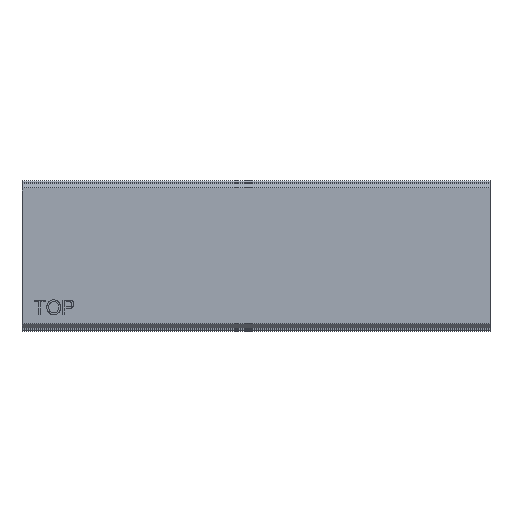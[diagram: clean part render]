
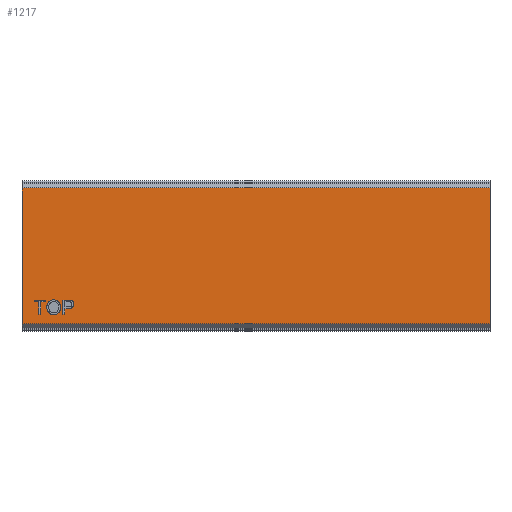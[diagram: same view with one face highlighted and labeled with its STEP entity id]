
A CAD part, top view. The second image highlights one B-rep face of the part: STEP entity #1217.
In plain terms, the highlighted planar face has unit normal (0, 0, 1).
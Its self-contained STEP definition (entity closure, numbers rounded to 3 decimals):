
#243=CARTESIAN_POINT('',(10.621,-22.027,0.));
#244=VERTEX_POINT('',#243);
#251=CARTESIAN_POINT('',(13.541,-25.101,0.));
#252=VERTEX_POINT('',#251);
#253=CARTESIAN_POINT('',(13.541,-25.101,0.));
#254=CARTESIAN_POINT('',(12.676,-25.101,0.));
#255=CARTESIAN_POINT('',(11.319,-24.268,0.));
#256=CARTESIAN_POINT('',(10.621,-22.832,0.));
#257=CARTESIAN_POINT('',(10.621,-22.027,0.));
#258=QUASI_UNIFORM_CURVE('',2,(#253,#254,#255,#256,#257),.UNSPECIFIED.,.F.,.U.);
#259=EDGE_CURVE('',#252,#244,#258,.T.);
#292=CARTESIAN_POINT('',(16.456,-21.958,0.));
#293=VERTEX_POINT('',#292);
#294=CARTESIAN_POINT('',(16.456,-21.958,0.));
#295=CARTESIAN_POINT('',(16.456,-22.883,0.));
#296=CARTESIAN_POINT('',(15.708,-24.347,0.));
#297=CARTESIAN_POINT('',(14.331,-25.101,0.));
#298=CARTESIAN_POINT('',(13.541,-25.101,0.));
#299=QUASI_UNIFORM_CURVE('',2,(#294,#295,#296,#297,#298),.UNSPECIFIED.,.F.,.U.);
#300=EDGE_CURVE('',#293,#252,#299,.T.);
#333=CARTESIAN_POINT('',(13.541,-18.791,0.));
#334=VERTEX_POINT('',#333);
#335=CARTESIAN_POINT('',(13.541,-18.791,0.));
#336=CARTESIAN_POINT('',(14.387,-18.791,0.));
#337=CARTESIAN_POINT('',(15.745,-19.6,0.));
#338=CARTESIAN_POINT('',(16.456,-21.042,0.));
#339=CARTESIAN_POINT('',(16.456,-21.958,0.));
#340=QUASI_UNIFORM_CURVE('',2,(#335,#336,#337,#338,#339),.UNSPECIFIED.,.F.,.U.);
#341=EDGE_CURVE('',#334,#293,#340,.T.);
#369=CARTESIAN_POINT('',(10.621,-22.027,0.));
#370=CARTESIAN_POINT('',(10.621,-20.507,0.));
#371=CARTESIAN_POINT('',(12.253,-18.791,0.));
#372=CARTESIAN_POINT('',(13.541,-18.791,0.));
#373=QUASI_UNIFORM_CURVE('',2,(#369,#370,#371,#372),.UNSPECIFIED.,.F.,.U.);
#374=EDGE_CURVE('',#244,#334,#373,.T.);
#413=CARTESIAN_POINT('',(7.208,-24.998,0.));
#414=VERTEX_POINT('',#413);
#421=CARTESIAN_POINT('',(8.017,-24.998,0.));
#422=VERTEX_POINT('',#421);
#423=CARTESIAN_POINT('',(8.017,-24.998,0.));
#424=DIRECTION('',(-1.0,0.0,0.0));
#425=VECTOR('',#424,0.809);
#426=LINE('',#423,#425);
#427=EDGE_CURVE('',#422,#414,#426,.T.);
#452=CARTESIAN_POINT('',(8.017,-19.619,0.));
#453=VERTEX_POINT('',#452);
#454=CARTESIAN_POINT('',(8.017,-19.619,0.));
#455=DIRECTION('',(0.0,-1.0,0.0));
#456=VECTOR('',#455,5.379);
#457=LINE('',#454,#456);
#458=EDGE_CURVE('',#453,#422,#457,.T.);
#483=CARTESIAN_POINT('',(10.035,-19.619,0.));
#484=VERTEX_POINT('',#483);
#485=CARTESIAN_POINT('',(10.035,-19.619,0.));
#486=DIRECTION('',(-1.0,0.0,0.0));
#487=VECTOR('',#486,2.018);
#488=LINE('',#485,#487);
#489=EDGE_CURVE('',#484,#453,#488,.T.);
#514=CARTESIAN_POINT('',(10.035,-18.898,0.));
#515=VERTEX_POINT('',#514);
#516=CARTESIAN_POINT('',(10.035,-18.898,0.));
#517=DIRECTION('',(0.0,-1.0,0.0));
#518=VECTOR('',#517,0.721);
#519=LINE('',#516,#518);
#520=EDGE_CURVE('',#515,#484,#519,.T.);
#545=CARTESIAN_POINT('',(5.2,-18.898,0.));
#546=VERTEX_POINT('',#545);
#547=CARTESIAN_POINT('',(5.2,-18.898,0.));
#548=DIRECTION('',(1.0,0.0,0.0));
#549=VECTOR('',#548,4.835);
#550=LINE('',#547,#549);
#551=EDGE_CURVE('',#546,#515,#550,.T.);
#576=CARTESIAN_POINT('',(5.2,-19.619,0.));
#577=VERTEX_POINT('',#576);
#578=CARTESIAN_POINT('',(5.2,-19.619,0.));
#579=DIRECTION('',(0.0,1.0,0.0));
#580=VECTOR('',#579,0.721);
#581=LINE('',#578,#580);
#582=EDGE_CURVE('',#577,#546,#581,.T.);
#607=CARTESIAN_POINT('',(7.208,-19.619,0.));
#608=VERTEX_POINT('',#607);
#609=CARTESIAN_POINT('',(7.208,-19.619,0.));
#610=DIRECTION('',(-1.0,0.0,0.0));
#611=VECTOR('',#610,2.009);
#612=LINE('',#609,#611);
#613=EDGE_CURVE('',#608,#577,#612,.T.);
#636=CARTESIAN_POINT('',(7.208,-24.998,0.));
#637=DIRECTION('',(0.0,1.0,0.0));
#638=VECTOR('',#637,5.379);
#639=LINE('',#636,#638);
#640=EDGE_CURVE('',#414,#608,#639,.T.);
#877=CARTESIAN_POINT('',(17.493,-24.998,0.));
#878=VERTEX_POINT('',#877);
#885=CARTESIAN_POINT('',(18.302,-24.998,0.));
#886=VERTEX_POINT('',#885);
#887=CARTESIAN_POINT('',(18.302,-24.998,0.));
#888=DIRECTION('',(-1.0,0.0,0.0));
#889=VECTOR('',#888,0.809);
#890=LINE('',#887,#889);
#891=EDGE_CURVE('',#886,#878,#890,.T.);
#916=CARTESIAN_POINT('',(18.302,-22.52,0.));
#917=VERTEX_POINT('',#916);
#918=CARTESIAN_POINT('',(18.302,-22.52,0.));
#919=DIRECTION('',(0.0,-1.0,0.0));
#920=VECTOR('',#919,2.478);
#921=LINE('',#918,#920);
#922=EDGE_CURVE('',#917,#886,#921,.T.);
#947=CARTESIAN_POINT('',(19.869,-22.52,0.));
#948=VERTEX_POINT('',#947);
#949=CARTESIAN_POINT('',(19.869,-22.52,0.));
#950=DIRECTION('',(-1.0,0.0,0.0));
#951=VECTOR('',#950,1.567);
#952=LINE('',#949,#951);
#953=EDGE_CURVE('',#948,#917,#952,.T.);
#983=CARTESIAN_POINT('',(22.152,-20.665,0.));
#984=VERTEX_POINT('',#983);
#985=CARTESIAN_POINT('',(22.152,-20.665,0.));
#986=CARTESIAN_POINT('',(22.152,-21.442,0.));
#987=CARTESIAN_POINT('',(21.161,-22.52,0.));
#988=CARTESIAN_POINT('',(19.869,-22.52,0.));
#989=QUASI_UNIFORM_CURVE('',2,(#985,#986,#987,#988),.UNSPECIFIED.,.F.,.U.);
#990=EDGE_CURVE('',#984,#948,#989,.T.);
#1023=CARTESIAN_POINT('',(20.724,-18.959,0.));
#1024=VERTEX_POINT('',#1023);
#1025=CARTESIAN_POINT('',(20.724,-18.959,0.));
#1026=CARTESIAN_POINT('',(21.175,-19.033,0.));
#1027=CARTESIAN_POINT('',(21.78,-19.452,0.));
#1028=CARTESIAN_POINT('',(22.152,-20.21,0.));
#1029=CARTESIAN_POINT('',(22.152,-20.665,0.));
#1030=QUASI_UNIFORM_CURVE('',2,(#1025,#1026,#1027,#1028,#1029),.UNSPECIFIED.,.F.,.U.);
#1031=EDGE_CURVE('',#1024,#984,#1030,.T.);
#1058=CARTESIAN_POINT('',(19.794,-18.898,0.));
#1059=VERTEX_POINT('',#1058);
#1060=CARTESIAN_POINT('',(19.794,-18.898,0.));
#1061=CARTESIAN_POINT('',(20.403,-18.898,0.));
#1062=CARTESIAN_POINT('',(20.724,-18.959,0.));
#1063=QUASI_UNIFORM_CURVE('',2,(#1060,#1061,#1062),.UNSPECIFIED.,.F.,.U.);
#1064=EDGE_CURVE('',#1059,#1024,#1063,.T.);
#1089=CARTESIAN_POINT('',(17.493,-18.898,0.));
#1090=VERTEX_POINT('',#1089);
#1091=CARTESIAN_POINT('',(17.493,-18.898,0.));
#1092=DIRECTION('',(1.0,0.0,0.0));
#1093=VECTOR('',#1092,2.301);
#1094=LINE('',#1091,#1093);
#1095=EDGE_CURVE('',#1090,#1059,#1094,.T.);
#1118=CARTESIAN_POINT('',(17.493,-24.998,0.));
#1119=DIRECTION('',(0.0,1.0,0.0));
#1120=VECTOR('',#1119,6.1);
#1121=LINE('',#1118,#1120);
#1122=EDGE_CURVE('',#878,#1090,#1121,.T.);
#1152=CARTESIAN_POINT('',(0.0,0.0,0.));
#1153=DIRECTION('',(0.0,0.0,1.0));
#1154=DIRECTION('',(1.0,0.0,0.0));
#1155=AXIS2_PLACEMENT_3D('',#1152,#1153,#1154);
#1156=PLANE('',#1155);
#1157=CARTESIAN_POINT('',(200.0,-29.0,0.));
#1158=VERTEX_POINT('',#1157);
#1159=CARTESIAN_POINT('',(200.0,29.,0.));
#1160=VERTEX_POINT('',#1159);
#1161=CARTESIAN_POINT('',(200.0,-29.,0.));
#1162=DIRECTION('',(0.0,1.0,0.0));
#1163=VECTOR('',#1162,58.);
#1164=LINE('',#1161,#1163);
#1165=EDGE_CURVE('',#1158,#1160,#1164,.T.);
#1166=ORIENTED_EDGE('',*,*,#1165,.T.);
#1167=CARTESIAN_POINT('',(0.0,29.,0.));
#1168=VERTEX_POINT('',#1167);
#1169=CARTESIAN_POINT('',(0.0,29.,0.));
#1170=DIRECTION('',(1.0,0.0,0.0));
#1171=VECTOR('',#1170,200.0);
#1172=LINE('',#1169,#1171);
#1173=EDGE_CURVE('',#1168,#1160,#1172,.T.);
#1174=ORIENTED_EDGE('',*,*,#1173,.F.);
#1175=CARTESIAN_POINT('',(0.0,-29.0,0.));
#1176=VERTEX_POINT('',#1175);
#1177=CARTESIAN_POINT('',(0.0,29.,0.));
#1178=DIRECTION('',(0.0,-1.0,0.0));
#1179=VECTOR('',#1178,58.);
#1180=LINE('',#1177,#1179);
#1181=EDGE_CURVE('',#1168,#1176,#1180,.T.);
#1182=ORIENTED_EDGE('',*,*,#1181,.T.);
#1183=CARTESIAN_POINT('',(0.0,-29.0,0.));
#1184=DIRECTION('',(1.0,0.0,0.0));
#1185=VECTOR('',#1184,200.0);
#1186=LINE('',#1183,#1185);
#1187=EDGE_CURVE('',#1176,#1158,#1186,.T.);
#1188=ORIENTED_EDGE('',*,*,#1187,.T.);
#1189=EDGE_LOOP('',(#1166,#1174,#1182,#1188));
#1190=FACE_OUTER_BOUND('',#1189,.T.);
#1191=ORIENTED_EDGE('',*,*,#259,.T.);
#1192=ORIENTED_EDGE('',*,*,#374,.T.);
#1193=ORIENTED_EDGE('',*,*,#341,.T.);
#1194=ORIENTED_EDGE('',*,*,#300,.T.);
#1195=EDGE_LOOP('',(#1191,#1192,#1193,#1194));
#1196=FACE_BOUND('',#1195,.T.);
#1197=ORIENTED_EDGE('',*,*,#427,.T.);
#1198=ORIENTED_EDGE('',*,*,#640,.T.);
#1199=ORIENTED_EDGE('',*,*,#613,.T.);
#1200=ORIENTED_EDGE('',*,*,#582,.T.);
#1201=ORIENTED_EDGE('',*,*,#551,.T.);
#1202=ORIENTED_EDGE('',*,*,#520,.T.);
#1203=ORIENTED_EDGE('',*,*,#489,.T.);
#1204=ORIENTED_EDGE('',*,*,#458,.T.);
#1205=EDGE_LOOP('',(#1197,#1198,#1199,#1200,#1201,#1202,#1203,#1204));
#1206=FACE_BOUND('',#1205,.T.);
#1207=ORIENTED_EDGE('',*,*,#891,.T.);
#1208=ORIENTED_EDGE('',*,*,#1122,.T.);
#1209=ORIENTED_EDGE('',*,*,#1095,.T.);
#1210=ORIENTED_EDGE('',*,*,#1064,.T.);
#1211=ORIENTED_EDGE('',*,*,#1031,.T.);
#1212=ORIENTED_EDGE('',*,*,#990,.T.);
#1213=ORIENTED_EDGE('',*,*,#953,.T.);
#1214=ORIENTED_EDGE('',*,*,#922,.T.);
#1215=EDGE_LOOP('',(#1207,#1208,#1209,#1210,#1211,#1212,#1213,#1214));
#1216=FACE_BOUND('',#1215,.T.);
#1217=ADVANCED_FACE('',(#1190,#1196,#1206,#1216),#1156,.T.);
